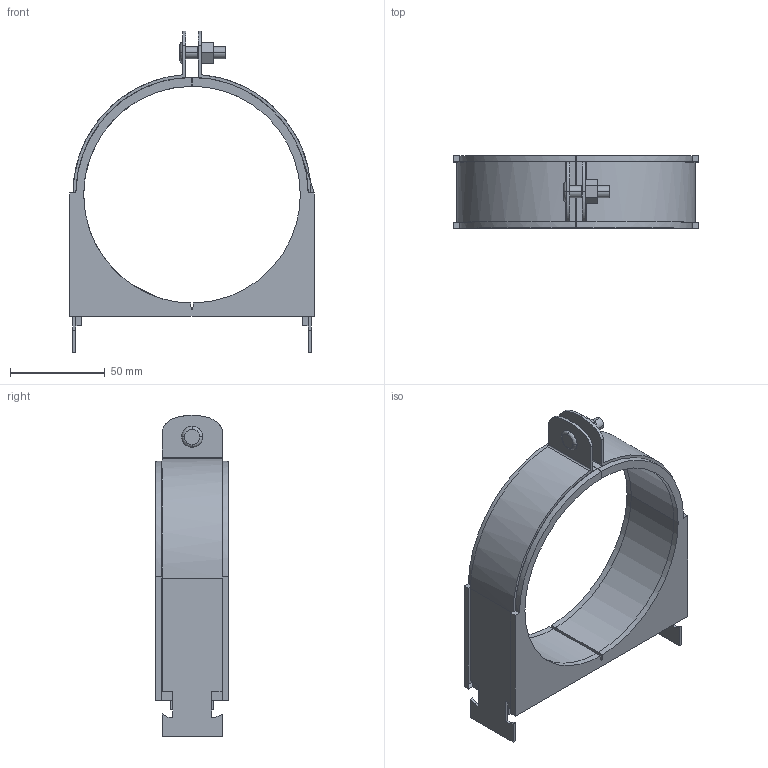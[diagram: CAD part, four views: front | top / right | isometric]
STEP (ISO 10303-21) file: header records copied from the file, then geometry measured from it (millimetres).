
FILE_DESCRIPTION(('TurboCAD Mac Pro'),'Build 980');
FILE_NAME('072N080.stp',' ',(''),(''),'ACIS Interop','IMSI','TurboCAD Mac Pro BY IMSI, INCORPORATED');
FILE_SCHEMA(('automotive_design'));
Length unit declared in the file: inch
Products named in the file (3): 1; 2; 3
Bounding box: 128.91 x 38.1 x 169.42 mm (x, y, z)
Volume: 159671 mm3; surface area: 67173.4 mm2
Topology: 3 solids, 3 shells, 148 faces, 392 edges, 254 vertices
Faces by surface type: plane 102, bspline 46
Entity records: 7170 total; most frequent: CARTESIAN_POINT 1763, ORIENTED_EDGE 784, DIRECTION 498, EDGE_CURVE 392, STYLED_ITEM 319, PRESENTATION_STYLE_ASSIGNMENT 319, COLOUR_RGB 319, LINE 280
